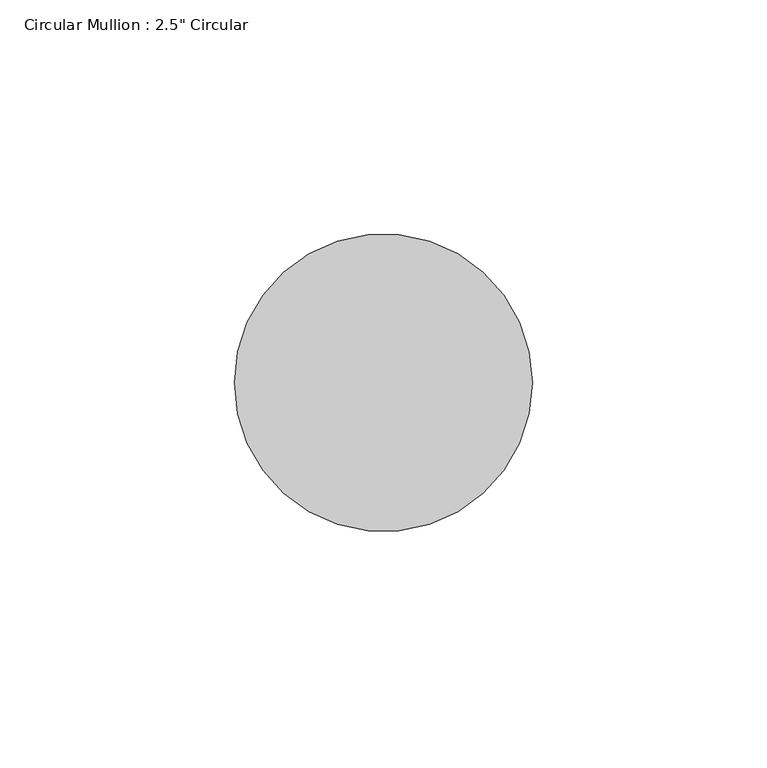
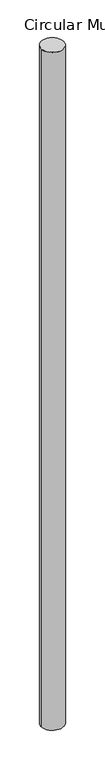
"""IFC4 building model written with IfcOpenShell, lengths in millimetres: member geometry."""

from ifc_helpers import new_model, si_unit, point, frame, origin, origin_2d, place, context, project, spatial, circle_curve, trimmed, segment, composite_curve, outline, extrude, source, transform, mapped, element, save


def member_153dbc30(model_context):
    return source(origin(), model_context, "Body", "SweptSolid", [
        extrude(outline(composite_curve([segment(trimmed(circle_curve(origin_2d(), 31.75), [point((31.75, 0.0))], [point((-31.75, 0.0))], False, "CARTESIAN"), True, "CONTINUOUS"), segment(trimmed(circle_curve(origin_2d(), 31.75), [point((-31.75, 0.0))], [point((31.75, 0.0))], False, "CARTESIAN"), True, "CONTINUOUS")], self_intersect=False)), frame((0.0, 0.0, -2021.2900439), z_axis=(0.0, 0.0, 1.0), x_axis=(1.0, 0.0, 0.0)), (0.0, 0.0, 1.0), 2021.2900439),
    ])


if __name__ == "__main__":
    model = new_model("IFC4")
    model_context = context("Model", 3, world=origin())
    ifc_project = project(units=[si_unit("LENGTHUNIT", "METRE", prefix="MILLI")], contexts=[model_context])
    site = spatial("IfcSite", under=ifc_project)
    building = spatial("IfcBuilding", under=site)
    placement = place(None, origin())
    member_shape = member_153dbc30(model_context)
    element("IfcMember", 1, ObjectType="Circular Mullion : 2.5\" Circular", at=placement, inside=building, context=model_context, shape_type="MappedRepresentation", body=[
        mapped(member_shape, transform((0.0, 0.0, 0.0), x_axis=(1.0, 0.0, 0.0), y_axis=(0.0, 1.0, 0.0), z_axis=(0.0, 0.0, 1.0))),
    ])
    save(model, "model.ifc")
